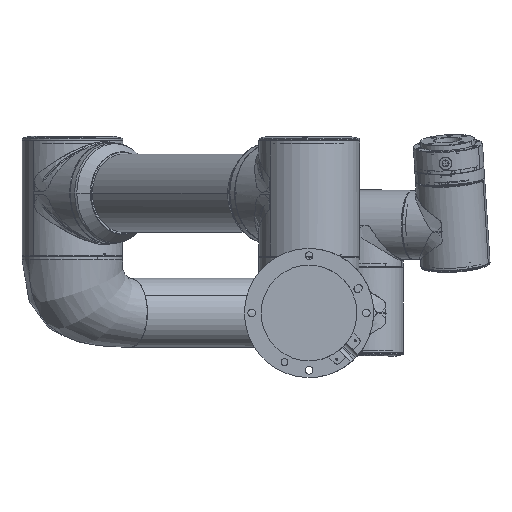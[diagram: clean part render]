
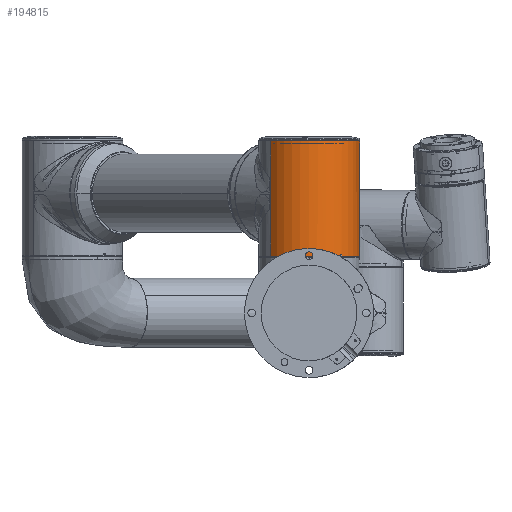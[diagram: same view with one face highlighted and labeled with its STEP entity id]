
A CAD part, front view. The second image highlights one B-rep face of the part: STEP entity #194815.
In plain terms, the highlighted cylindrical face has radius 58 mm (diameter 116 mm), a partial arc.
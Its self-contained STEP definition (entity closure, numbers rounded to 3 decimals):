
#3012 = CYLINDRICAL_SURFACE ( 'NONE', #200975, 58. ) ;
#4117 = EDGE_CURVE ( 'NONE', #222218, #236358, #133883, .T. ) ;
#4456 = VERTEX_POINT ( 'NONE', #165231 ) ;
#5639 = CARTESIAN_POINT ( 'NONE',  ( 57.994, 152.839, 67.487 ) ) ;
#6082 = CARTESIAN_POINT ( 'NONE',  ( 0., 94., 65.503 ) ) ;
#7868 = EDGE_CURVE ( 'NONE', #35469, #209553, #201326, .T. ) ;
#9281 = CARTESIAN_POINT ( 'NONE',  ( 57.993, 151.115, 66.092 ) ) ;
#9783 = EDGE_CURVE ( 'NONE', #222218, #242221, #165469, .T. ) ;
#16135 = DIRECTION ( 'NONE',  ( 0., 0., 1. ) ) ;
#16663 = AXIS2_PLACEMENT_3D ( 'NONE', #126871, #66576, #243402 ) ;
#17029 = EDGE_LOOP ( 'NONE', ( #46655, #149103, #69290, #255718, #218714, #182853, #231693, #81621, #52842, #72600, #126261, #85380 ) ) ;
#18354 = B_SPLINE_CURVE_WITH_KNOTS ( 'NONE', 3,
 ( #105213, #188904, #207216, #44954, #130018, #68455, #103908, #5639, #164144, #183770 ),
 .UNSPECIFIED., .F., .F.,
 ( 4, 2, 2, 2, 4 ),
 ( 0., 0.25, 0.5, 0.75, 1. ),
 .UNSPECIFIED. ) ;
#19995 = CARTESIAN_POINT ( 'NONE',  ( 57.993, 151.105, 65.503 ) ) ;
#22397 = LINE ( 'NONE', #101001, #237135 ) ;
#25150 = DIRECTION ( 'NONE',  ( 0., 0., -1. ) ) ;
#29107 = CARTESIAN_POINT ( 'NONE',  ( 57.996, 151.31, 67.78 ) ) ;
#35469 = VERTEX_POINT ( 'NONE', #132083 ) ;
#36883 = DIRECTION ( 'NONE',  ( 0., -1., 0. ) ) ;
#44723 = CARTESIAN_POINT ( 'NONE',  ( 57.993, 151.125, 66.68 ) ) ;
#44954 = CARTESIAN_POINT ( 'NONE',  ( 57.998, 152.442, 67.994 ) ) ;
#46655 = ORIENTED_EDGE ( 'NONE', *, *, #9783, .F. ) ;
#51922 = B_SPLINE_CURVE_WITH_KNOTS ( 'NONE', 3,
 ( #148300, #128669, #64497, #208428, #29107, #188843, #249089, #129951 ),
 .UNSPECIFIED., .F., .F.,
 ( 4, 2, 2, 4 ),
 ( 0., 0.25, 0.5, 1. ),
 .UNSPECIFIED. ) ;
#52326 = CIRCLE ( 'NONE', #73819, 58. ) ;
#52414 = CARTESIAN_POINT ( 'NONE',  ( 0., 210., 65.503 ) ) ;
#52842 = ORIENTED_EDGE ( 'NONE', *, *, #121533, .T. ) ;
#63716 = CARTESIAN_POINT ( 'NONE',  ( 57.994, 152.864, 67.269 ) ) ;
#64497 = CARTESIAN_POINT ( 'NONE',  ( 57.994, 151.161, 67.486 ) ) ;
#65816 = DIRECTION ( 'NONE',  ( 0., -1., 0. ) ) ;
#66171 = VERTEX_POINT ( 'NONE', #162570 ) ;
#66576 = DIRECTION ( 'NONE',  ( 0., 0., -1. ) ) ;
#67513 = EDGE_CURVE ( 'NONE', #236358, #68305, #124689, .T. ) ;
#68305 = VERTEX_POINT ( 'NONE', #227601 ) ;
#68455 = CARTESIAN_POINT ( 'NONE',  ( 57.996, 152.69, 67.78 ) ) ;
#69290 = ORIENTED_EDGE ( 'NONE', *, *, #67513, .T. ) ;
#69807 = VECTOR ( 'NONE', #25150, 1000. ) ;
#72600 = ORIENTED_EDGE ( 'NONE', *, *, #124146, .T. ) ;
#73606 = CARTESIAN_POINT ( 'NONE',  ( 0., 152., 65.503 ) ) ;
#73616 = CARTESIAN_POINT ( 'NONE',  ( 58., 151.983, 68.1 ) ) ;
#73819 = AXIS2_PLACEMENT_3D ( 'NONE', #238713, #16135, #96035 ) ;
#73984 = VECTOR ( 'NONE', #122918, 1000. ) ;
#76359 = EDGE_CURVE ( 'NONE', #121852, #4456, #196071, .T. ) ;
#81369 = DIRECTION ( 'NONE',  ( 0., 0., -1. ) ) ;
#81621 = ORIENTED_EDGE ( 'NONE', *, *, #76359, .T. ) ;
#81950 =( BOUNDED_CURVE ( )  B_SPLINE_CURVE ( 3, ( #246329, #9281, #44723, #208259 ),
 .UNSPECIFIED., .F., .F. ) 
 B_SPLINE_CURVE_WITH_KNOTS ( ( 4, 4 ),
 ( 1.555, 1.556 ),
 .UNSPECIFIED. ) 
 CURVE ( )  GEOMETRIC_REPRESENTATION_ITEM ( )  RATIONAL_B_SPLINE_CURVE ( ( 1., 1., 1., 1. ) ) 
 REPRESENTATION_ITEM ( '' )  );
#82352 = VERTEX_POINT ( 'NONE', #170708 ) ;
#82943 = CARTESIAN_POINT ( 'NONE',  ( 0., 152., 199. ) ) ;
#83595 = CARTESIAN_POINT ( 'NONE',  ( 0., 210., 199. ) ) ;
#84695 = CARTESIAN_POINT ( 'NONE',  ( 57.993, 152.875, 66.68 ) ) ;
#85380 = ORIENTED_EDGE ( 'NONE', *, *, #140008, .F. ) ;
#88454 = AXIS2_PLACEMENT_3D ( 'NONE', #73606, #153490, #36883 ) ;
#96035 = DIRECTION ( 'NONE',  ( 0., -1., 0. ) ) ;
#101001 = CARTESIAN_POINT ( 'NONE',  ( 0., 94., 199. ) ) ;
#103908 = CARTESIAN_POINT ( 'NONE',  ( 57.995, 152.752, 67.689 ) ) ;
#105213 = CARTESIAN_POINT ( 'NONE',  ( 58., 152.017, 68.1 ) ) ;
#117636 = VERTEX_POINT ( 'NONE', #19995 ) ;
#121533 = EDGE_CURVE ( 'NONE', #4456, #66171, #18354, .T. ) ;
#121852 = VERTEX_POINT ( 'NONE', #73616 ) ;
#122918 = DIRECTION ( 'NONE',  ( 0., 0., -1. ) ) ;
#124146 = EDGE_CURVE ( 'NONE', #66171, #35469, #250238, .T. ) ;
#124689 = LINE ( 'NONE', #204501, #69807 ) ;
#125020 = DIRECTION ( 'NONE',  ( 0., 1., 0. ) ) ;
#126261 = ORIENTED_EDGE ( 'NONE', *, *, #7868, .T. ) ;
#126832 = EDGE_CURVE ( 'NONE', #173639, #117636, #52326, .T. ) ;
#126871 = CARTESIAN_POINT ( 'NONE',  ( 0., 152., 198.497 ) ) ;
#127415 = FACE_OUTER_BOUND ( 'NONE', #17029, .T. ) ;
#128669 = CARTESIAN_POINT ( 'NONE',  ( 57.994, 151.138, 67.38 ) ) ;
#129951 = CARTESIAN_POINT ( 'NONE',  ( 58., 151.983, 68.1 ) ) ;
#130018 = CARTESIAN_POINT ( 'NONE',  ( 57.998, 152.532, 67.935 ) ) ;
#132083 = CARTESIAN_POINT ( 'NONE',  ( 57.993, 152.895, 65.503 ) ) ;
#133883 = CIRCLE ( 'NONE', #16663, 58. ) ;
#140008 = EDGE_CURVE ( 'NONE', #242221, #209553, #224959, .T. ) ;
#147556 = VECTOR ( 'NONE', #168071, 1000. ) ;
#148300 = CARTESIAN_POINT ( 'NONE',  ( 57.994, 151.136, 67.269 ) ) ;
#149103 = ORIENTED_EDGE ( 'NONE', *, *, #4117, .T. ) ;
#153490 = DIRECTION ( 'NONE',  ( 0., 0., 1. ) ) ;
#156255 = CARTESIAN_POINT ( 'NONE',  ( 0., 210., 198.497 ) ) ;
#162570 = CARTESIAN_POINT ( 'NONE',  ( 57.994, 152.864, 67.269 ) ) ;
#164144 = CARTESIAN_POINT ( 'NONE',  ( 57.994, 152.862, 67.381 ) ) ;
#165231 = CARTESIAN_POINT ( 'NONE',  ( 58., 152.017, 68.1 ) ) ;
#165469 = LINE ( 'NONE', #249206, #147556 ) ;
#168071 = DIRECTION ( 'NONE',  ( 0., 0., -1. ) ) ;
#170708 = CARTESIAN_POINT ( 'NONE',  ( 57.994, 151.136, 67.269 ) ) ;
#172264 = EDGE_CURVE ( 'NONE', #117636, #82352, #81950, .T. ) ;
#173639 = VERTEX_POINT ( 'NONE', #6082 ) ;
#182853 = ORIENTED_EDGE ( 'NONE', *, *, #172264, .T. ) ;
#182906 = CARTESIAN_POINT ( 'NONE',  ( 57.993, 152.885, 66.092 ) ) ;
#183770 = CARTESIAN_POINT ( 'NONE',  ( 57.994, 152.864, 67.269 ) ) ;
#188560 = CARTESIAN_POINT ( 'NONE',  ( 0., 210., 138. ) ) ;
#188843 = CARTESIAN_POINT ( 'NONE',  ( 57.998, 151.548, 68.013 ) ) ;
#188904 = CARTESIAN_POINT ( 'NONE',  ( 58., 152.127, 68.1 ) ) ;
#194815 = ADVANCED_FACE ( 'NONE', ( #127415 ), #3012, .T. ) ;
#196071 = CIRCLE ( 'NONE', #216807, 58. ) ;
#200956 = CARTESIAN_POINT ( 'NONE',  ( 0., 152., 68.1 ) ) ;
#200975 = AXIS2_PLACEMENT_3D ( 'NONE', #82943, #243951, #65816 ) ;
#201326 = CIRCLE ( 'NONE', #88454, 58. ) ;
#204501 = CARTESIAN_POINT ( 'NONE',  ( 0., 94., 199. ) ) ;
#207216 = CARTESIAN_POINT ( 'NONE',  ( 58., 152.235, 68.078 ) ) ;
#208259 = CARTESIAN_POINT ( 'NONE',  ( 57.994, 151.136, 67.269 ) ) ;
#208428 = CARTESIAN_POINT ( 'NONE',  ( 57.995, 151.25, 67.691 ) ) ;
#209553 = VERTEX_POINT ( 'NONE', #52414 ) ;
#216807 = AXIS2_PLACEMENT_3D ( 'NONE', #200956, #221955, #125020 ) ;
#218326 = CARTESIAN_POINT ( 'NONE',  ( 57.993, 152.895, 65.503 ) ) ;
#218714 = ORIENTED_EDGE ( 'NONE', *, *, #126832, .T. ) ;
#221955 = DIRECTION ( 'NONE',  ( 0., 0., 1. ) ) ;
#222218 = VERTEX_POINT ( 'NONE', #156255 ) ;
#224959 = LINE ( 'NONE', #83595, #73984 ) ;
#227601 = CARTESIAN_POINT ( 'NONE',  ( 0., 94., 138. ) ) ;
#231693 = ORIENTED_EDGE ( 'NONE', *, *, #237447, .T. ) ;
#236358 = VERTEX_POINT ( 'NONE', #241033 ) ;
#237135 = VECTOR ( 'NONE', #81369, 1000. ) ;
#237447 = EDGE_CURVE ( 'NONE', #82352, #121852, #51922, .T. ) ;
#238713 = CARTESIAN_POINT ( 'NONE',  ( 0., 152., 65.503 ) ) ;
#240384 = EDGE_CURVE ( 'NONE', #68305, #173639, #22397, .T. ) ;
#241033 = CARTESIAN_POINT ( 'NONE',  ( 0., 94., 198.497 ) ) ;
#242221 = VERTEX_POINT ( 'NONE', #188560 ) ;
#243402 = DIRECTION ( 'NONE',  ( 0., -1., 0. ) ) ;
#243951 = DIRECTION ( 'NONE',  ( 0., 0., -1. ) ) ;
#246329 = CARTESIAN_POINT ( 'NONE',  ( 57.993, 151.105, 65.503 ) ) ;
#249089 = CARTESIAN_POINT ( 'NONE',  ( 58., 151.761, 68.1 ) ) ;
#249206 = CARTESIAN_POINT ( 'NONE',  ( 0., 210., 199. ) ) ;
#250238 =( BOUNDED_CURVE ( )  B_SPLINE_CURVE ( 3, ( #63716, #84695, #182906, #218326 ),
 .UNSPECIFIED., .F., .F. ) 
 B_SPLINE_CURVE_WITH_KNOTS ( ( 4, 4 ),
 ( 4.727, 4.728 ),
 .UNSPECIFIED. ) 
 CURVE ( )  GEOMETRIC_REPRESENTATION_ITEM ( )  RATIONAL_B_SPLINE_CURVE ( ( 1., 1., 1., 1. ) ) 
 REPRESENTATION_ITEM ( '' )  );
#255718 = ORIENTED_EDGE ( 'NONE', *, *, #240384, .T. ) ;
